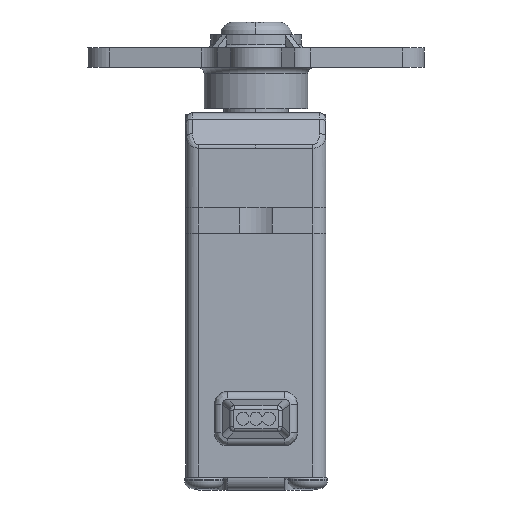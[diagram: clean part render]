
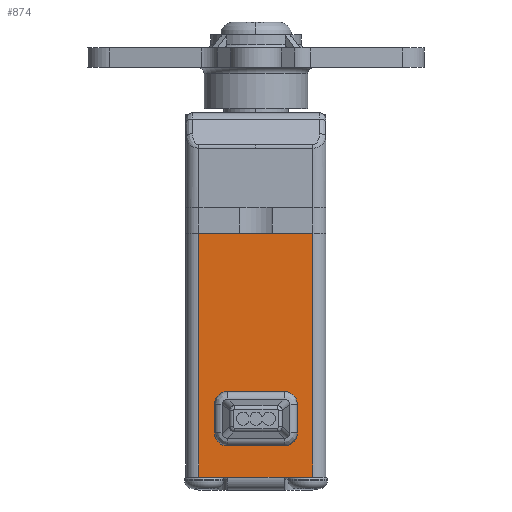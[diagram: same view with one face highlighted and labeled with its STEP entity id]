
A CAD part, front view. The second image highlights one B-rep face of the part: STEP entity #874.
In plain terms, the highlighted planar face has unit normal (0, -1, 0).
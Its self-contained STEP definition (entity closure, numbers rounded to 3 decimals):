
#268 = ORIENTED_EDGE ( 'NONE', *, *, #949, .T. ) ;
#274 = DIRECTION ( 'NONE',  ( 0., 0., -1. ) ) ;
#329 = CARTESIAN_POINT ( 'NONE',  ( -4.4, -6.9, -9.3 ) ) ;
#455 = ORIENTED_EDGE ( 'NONE', *, *, #4717, .T. ) ;
#506 = EDGE_CURVE ( 'NONE', #1468, #2113, #5056, .T. ) ;
#736 = ORIENTED_EDGE ( 'NONE', *, *, #10500, .T. ) ;
#749 = VECTOR ( 'NONE', #6895, 1000. ) ;
#872 = CARTESIAN_POINT ( 'NONE',  ( 3.25, -6.9, -28.1 ) ) ;
#874 = ADVANCED_FACE ( 'NONE', ( #4135, #6942 ), #11967, .T. ) ;
#895 = VERTEX_POINT ( 'NONE', #5100 ) ;
#903 = EDGE_LOOP ( 'NONE', ( #4804, #9620, #11936, #268, #736, #11921, #6526, #3343 ) ) ;
#916 = DIRECTION ( 'NONE',  ( 0., 0., -1. ) ) ;
#949 = EDGE_CURVE ( 'NONE', #3653, #11108, #9806, .T. ) ;
#1142 = CARTESIAN_POINT ( 'NONE',  ( 3.25, -6.9, -23.7 ) ) ;
#1468 = VERTEX_POINT ( 'NONE', #5387 ) ;
#1518 = DIRECTION ( 'NONE',  ( 1., 0., 0. ) ) ;
#1730 = DIRECTION ( 'NONE',  ( 0., 0., 1. ) ) ;
#1840 = VECTOR ( 'NONE', #2615, 1000. ) ;
#1951 = CARTESIAN_POINT ( 'NONE',  ( -3.2, -6.9, -22.5 ) ) ;
#1962 = CARTESIAN_POINT ( 'NONE',  ( -2.2, -6.9, -22.5 ) ) ;
#2017 = DIRECTION ( 'NONE',  ( 1., 0., 0. ) ) ;
#2098 = DIRECTION ( 'NONE',  ( -1., 0., 0. ) ) ;
#2106 = CARTESIAN_POINT ( 'NONE',  ( 2.2, -6.9, -24.7 ) ) ;
#2113 = VERTEX_POINT ( 'NONE', #7816 ) ;
#2122 = VECTOR ( 'NONE', #916, 1000. ) ;
#2489 = CARTESIAN_POINT ( 'NONE',  ( 2.2, -6.9, -21.5 ) ) ;
#2615 = DIRECTION ( 'NONE',  ( 1., 0., 0. ) ) ;
#2828 = ORIENTED_EDGE ( 'NONE', *, *, #9554, .T. ) ;
#2917 = DIRECTION ( 'NONE',  ( 0., 0., -1. ) ) ;
#3042 = LINE ( 'NONE', #872, #6186 ) ;
#3072 = CARTESIAN_POINT ( 'NONE',  ( -1., -6.9, -28.1 ) ) ;
#3119 = DIRECTION ( 'NONE',  ( 0., 0., -1. ) ) ;
#3198 = CARTESIAN_POINT ( 'NONE',  ( 3.25, -6.9, -25.7 ) ) ;
#3220 = VERTEX_POINT ( 'NONE', #5268 ) ;
#3254 = CARTESIAN_POINT ( 'NONE',  ( 4.4, -6.9, -9.3 ) ) ;
#3294 = CARTESIAN_POINT ( 'NONE',  ( 4.4, -6.9, -28.1 ) ) ;
#3343 = ORIENTED_EDGE ( 'NONE', *, *, #7334, .T. ) ;
#3356 = EDGE_CURVE ( 'NONE', #10186, #12421, #5765, .T. ) ;
#3379 = VECTOR ( 'NONE', #1518, 1000. ) ;
#3653 = VERTEX_POINT ( 'NONE', #1951 ) ;
#3671 = AXIS2_PLACEMENT_3D ( 'NONE', #1962, #7072, #3119 ) ;
#3711 = LINE ( 'NONE', #9483, #5707 ) ;
#3863 = CIRCLE ( 'NONE', #11654, 1. ) ;
#3999 = CIRCLE ( 'NONE', #8910, 1. ) ;
#4135 = FACE_BOUND ( 'NONE', #903, .T. ) ;
#4237 = VERTEX_POINT ( 'NONE', #11504 ) ;
#4568 = CARTESIAN_POINT ( 'NONE',  ( -4.4, -6.9, -23.7 ) ) ;
#4717 = EDGE_CURVE ( 'NONE', #11338, #10733, #6409, .T. ) ;
#4804 = ORIENTED_EDGE ( 'NONE', *, *, #506, .T. ) ;
#5056 = LINE ( 'NONE', #3198, #11698 ) ;
#5100 = CARTESIAN_POINT ( 'NONE',  ( -2.4, -6.9, -28.1 ) ) ;
#5268 = CARTESIAN_POINT ( 'NONE',  ( 2.4, -6.9, -28.1 ) ) ;
#5318 = AXIS2_PLACEMENT_3D ( 'NONE', #1142, #6878, #8802 ) ;
#5387 = CARTESIAN_POINT ( 'NONE',  ( 2.2, -6.9, -25.7 ) ) ;
#5506 = CARTESIAN_POINT ( 'NONE',  ( 3.2, -6.9, -23.7 ) ) ;
#5707 = VECTOR ( 'NONE', #1730, 1000. ) ;
#5765 = LINE ( 'NONE', #9677, #2122 ) ;
#5830 = CARTESIAN_POINT ( 'NONE',  ( -2.2, -6.9, -21.5 ) ) ;
#5971 = DIRECTION ( 'NONE',  ( 1., 0., 0. ) ) ;
#6171 = EDGE_CURVE ( 'NONE', #3220, #12421, #11853, .T. ) ;
#6186 = VECTOR ( 'NONE', #5971, 1000. ) ;
#6313 = VERTEX_POINT ( 'NONE', #6442 ) ;
#6357 = VECTOR ( 'NONE', #10328, 1000. ) ;
#6409 = LINE ( 'NONE', #4568, #6357 ) ;
#6442 = CARTESIAN_POINT ( 'NONE',  ( 3.2, -6.9, -24.7 ) ) ;
#6526 = ORIENTED_EDGE ( 'NONE', *, *, #7306, .T. ) ;
#6676 = DIRECTION ( 'NONE',  ( 0., 1., 0. ) ) ;
#6878 = DIRECTION ( 'NONE',  ( 0., -1., 0. ) ) ;
#6895 = DIRECTION ( 'NONE',  ( 1., 0., 0. ) ) ;
#6942 = FACE_OUTER_BOUND ( 'NONE', #12056, .T. ) ;
#6993 = AXIS2_PLACEMENT_3D ( 'NONE', #8724, #6676, #2917 ) ;
#7041 = VECTOR ( 'NONE', #2017, 1000. ) ;
#7072 = DIRECTION ( 'NONE',  ( 0., 1., 0. ) ) ;
#7269 = EDGE_CURVE ( 'NONE', #4237, #3653, #3711, .T. ) ;
#7306 = EDGE_CURVE ( 'NONE', #8764, #6313, #10706, .T. ) ;
#7334 = EDGE_CURVE ( 'NONE', #6313, #1468, #3863, .T. ) ;
#7472 = DIRECTION ( 'NONE',  ( 0., 0., -1. ) ) ;
#7657 = DIRECTION ( 'NONE',  ( 0., 1., 0. ) ) ;
#7816 = CARTESIAN_POINT ( 'NONE',  ( -2.2, -6.9, -25.7 ) ) ;
#8557 = ORIENTED_EDGE ( 'NONE', *, *, #6171, .T. ) ;
#8724 = CARTESIAN_POINT ( 'NONE',  ( 2.2, -6.9, -22.5 ) ) ;
#8764 = VERTEX_POINT ( 'NONE', #11720 ) ;
#8802 = DIRECTION ( 'NONE',  ( 0., 0., -1. ) ) ;
#8828 = DIRECTION ( 'NONE',  ( 0., 1., 0. ) ) ;
#8886 = CARTESIAN_POINT ( 'NONE',  ( 5.065, -6.9, -9.3 ) ) ;
#8910 = AXIS2_PLACEMENT_3D ( 'NONE', #10610, #7657, #7472 ) ;
#9419 = ORIENTED_EDGE ( 'NONE', *, *, #10044, .F. ) ;
#9483 = CARTESIAN_POINT ( 'NONE',  ( -3.2, -6.9, -23.7 ) ) ;
#9554 = EDGE_CURVE ( 'NONE', #895, #3220, #10413, .T. ) ;
#9598 = ORIENTED_EDGE ( 'NONE', *, *, #3356, .F. ) ;
#9620 = ORIENTED_EDGE ( 'NONE', *, *, #10290, .T. ) ;
#9677 = CARTESIAN_POINT ( 'NONE',  ( 4.4, -6.9, -22.3 ) ) ;
#9797 = VECTOR ( 'NONE', #10822, 1000. ) ;
#9806 = CIRCLE ( 'NONE', #3671, 1. ) ;
#9835 = CARTESIAN_POINT ( 'NONE',  ( 3.25, -6.9, -21.5 ) ) ;
#9967 = CARTESIAN_POINT ( 'NONE',  ( -4.4, -6.9, -28.1 ) ) ;
#10044 = EDGE_CURVE ( 'NONE', #11338, #10186, #10698, .T. ) ;
#10186 = VERTEX_POINT ( 'NONE', #3254 ) ;
#10290 = EDGE_CURVE ( 'NONE', #2113, #4237, #3999, .T. ) ;
#10328 = DIRECTION ( 'NONE',  ( 0., 0., -1. ) ) ;
#10413 = LINE ( 'NONE', #12418, #3379 ) ;
#10500 = EDGE_CURVE ( 'NONE', #11108, #11378, #11770, .T. ) ;
#10610 = CARTESIAN_POINT ( 'NONE',  ( -2.2, -6.9, -24.7 ) ) ;
#10698 = LINE ( 'NONE', #8886, #749 ) ;
#10706 = LINE ( 'NONE', #5506, #9797 ) ;
#10733 = VERTEX_POINT ( 'NONE', #9967 ) ;
#10822 = DIRECTION ( 'NONE',  ( 0., 0., -1. ) ) ;
#10831 = ORIENTED_EDGE ( 'NONE', *, *, #10989, .T. ) ;
#10906 = EDGE_CURVE ( 'NONE', #11378, #8764, #12178, .T. ) ;
#10989 = EDGE_CURVE ( 'NONE', #10733, #895, #3042, .T. ) ;
#11108 = VERTEX_POINT ( 'NONE', #5830 ) ;
#11338 = VERTEX_POINT ( 'NONE', #329 ) ;
#11378 = VERTEX_POINT ( 'NONE', #2489 ) ;
#11504 = CARTESIAN_POINT ( 'NONE',  ( -3.2, -6.9, -24.7 ) ) ;
#11654 = AXIS2_PLACEMENT_3D ( 'NONE', #2106, #8828, #274 ) ;
#11698 = VECTOR ( 'NONE', #2098, 1000. ) ;
#11720 = CARTESIAN_POINT ( 'NONE',  ( 3.2, -6.9, -22.5 ) ) ;
#11770 = LINE ( 'NONE', #9835, #7041 ) ;
#11853 = LINE ( 'NONE', #3072, #1840 ) ;
#11921 = ORIENTED_EDGE ( 'NONE', *, *, #10906, .T. ) ;
#11936 = ORIENTED_EDGE ( 'NONE', *, *, #7269, .T. ) ;
#11967 = PLANE ( 'NONE',  #5318 ) ;
#12056 = EDGE_LOOP ( 'NONE', ( #455, #10831, #2828, #8557, #9598, #9419 ) ) ;
#12178 = CIRCLE ( 'NONE', #6993, 1. ) ;
#12418 = CARTESIAN_POINT ( 'NONE',  ( 3.25, -6.9, -28.1 ) ) ;
#12421 = VERTEX_POINT ( 'NONE', #3294 ) ;
